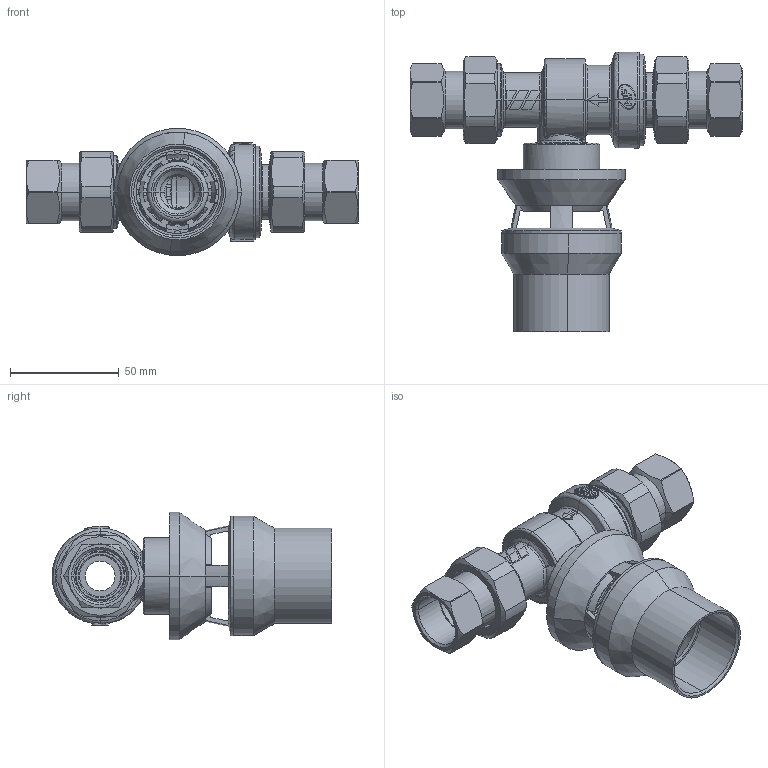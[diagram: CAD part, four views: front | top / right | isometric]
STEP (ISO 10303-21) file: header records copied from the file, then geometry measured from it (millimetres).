
FILE_DESCRIPTION (( 'STEP AP214' ), '1' );
FILE_NAME ('2230215.STEP', '2017-12-14T09:00:17', ( '' ), ( '' ), 'SwSTEP 2.0', 'SolidWorks 2017', '' );
FILE_SCHEMA (( 'AUTOMOTIVE_DESIGN' ));
Length unit declared in the file: millimetre
Products named in the file (11): 22016640; 22016536; 22016522; 22016626; 22018873; 22018873-2; 22018873-1; 22016625; 22014801; 22090197_22010334; 2230215
Assembly tree (14 placements, depth 3):
  2230215
    22090197_22010334
    22014801  x2
    22016625  x2
    22018873
      22018873-1
      22018873-2
    22016626
    22016522
    22016536  x2
    22016640  x2
Bounding box: 152.3 x 128.3 x 58.5 mm (x, y, z)
Volume: 97680.7 mm3; surface area: 83058 mm2
Topology: 13 solids, 13 shells, 802 faces, 1945 edges, 1180 vertices
Faces by surface type: cylinder 249, plane 224, cone 168, torus 93, bspline 64, sphere 4
Entity records: 24572 total; most frequent: CARTESIAN_POINT 7579, DIRECTION 3513, ORIENTED_EDGE 3480, EDGE_CURVE 1740, AXIS2_PLACEMENT_3D 1456, VERTEX_POINT 1057, CIRCLE 785, EDGE_LOOP 761
